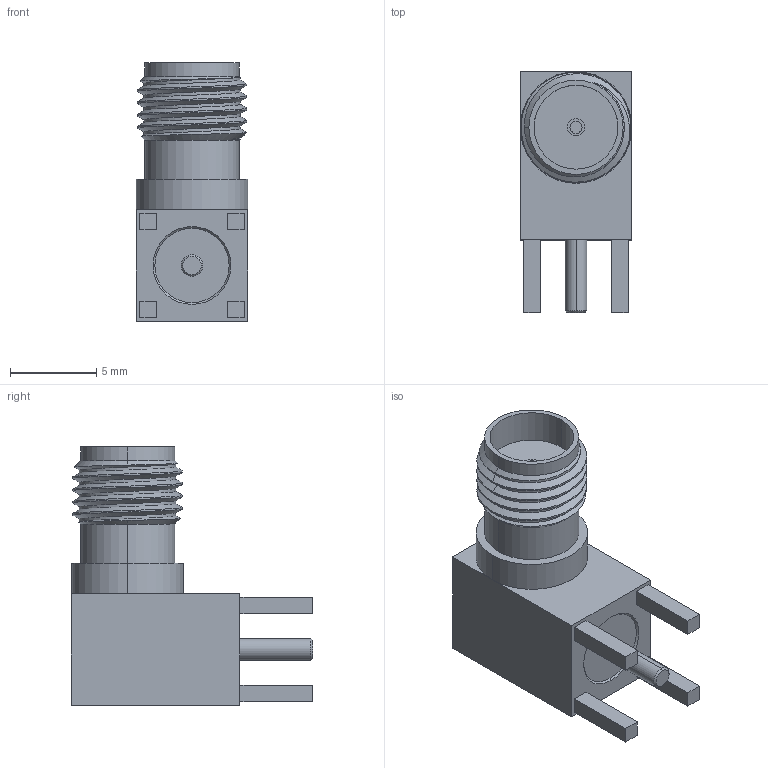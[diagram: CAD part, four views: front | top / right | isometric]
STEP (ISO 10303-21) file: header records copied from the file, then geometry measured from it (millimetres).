
FILE_DESCRIPTION (( 'STEP AP214' ), '1' );
FILE_NAME ('85201239.STEP', '2025-07-10T22:46:51', ( '' ), ( '' ), 'SwSTEP 2.0', 'SolidWorks 2021', '' );
FILE_SCHEMA (( 'AUTOMOTIVE_DESIGN' ));
Length unit declared in the file: millimetre
Products named in the file (1): 85201239
Bounding box: 6.46 x 13.95 x 14.96 mm (x, y, z)
Volume: 617.5 mm3; surface area: 949.7 mm2
Topology: 5 solids, 5 shells, 84 faces, 185 edges, 119 vertices
Faces by surface type: plane 40, cylinder 31, cone 10, bspline 3
Entity records: 3856 total; most frequent: CARTESIAN_POINT 1962, ORIENTED_EDGE 370, DIRECTION 368, EDGE_CURVE 185, AXIS2_PLACEMENT_3D 133, VERTEX_POINT 119, LINE 102, VECTOR 102
